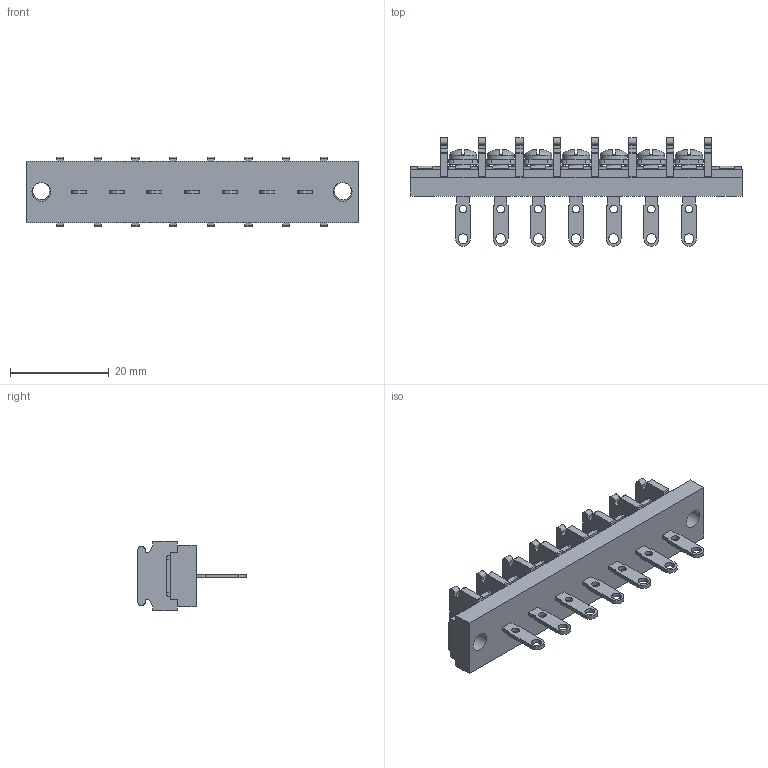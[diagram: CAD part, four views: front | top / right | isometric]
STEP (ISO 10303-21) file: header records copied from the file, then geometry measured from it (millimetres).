
FILE_DESCRIPTION(/* description */ ('Alibre Inc.'),/* implementation_level */ '2;1');
FILE_NAME(/* name */ 'export0',/* time_stamp */ '2015-10-26T16:39:17+09:00',/* author */ (''),/* organization */ (''),/* preprocessor_version */ 'ST-DEVELOPER v14',/* originating_system */ 'Alibre',/* authorisation */ '');
FILE_SCHEMA (('CONFIG_CONTROL_DESIGN'));
Length unit declared in the file: centimetre
Products named in the file (1): ID_1
Bounding box: 67.16 x 21.9 x 14 mm (x, y, z)
Volume: 6037.6 mm3; surface area: 6030.2 mm2
Topology: 1 solids, 17 shells, 1278 faces, 3476 edges, 2282 vertices
Faces by surface type: plane 985, cylinder 133, bspline 104, cone 28, torus 14, sphere 14
Full cylindrical faces by diameter (mm): 1.57 x7, 2 x7, 3 x7, 3.5 x2, 3.8 x2, 5.5 x7
Entity records: 38145 total; most frequent: CARTESIAN_POINT 8126, ORIENTED_EDGE 6824, DIRECTION 4757, EDGE_CURVE 3412, VECTOR 2500, LINE 2500, VERTEX_POINT 2264, AXIS2_PLACEMENT_3D 1582
